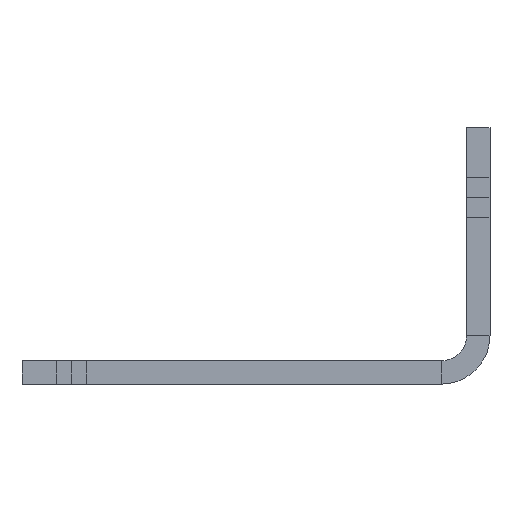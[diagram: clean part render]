
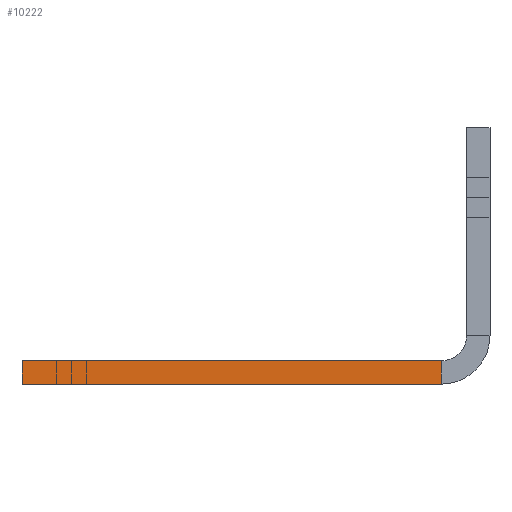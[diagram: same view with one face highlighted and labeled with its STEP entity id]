
A CAD part, front view. The second image highlights one B-rep face of the part: STEP entity #10222.
In plain terms, the highlighted planar face has unit normal (0, -1, 0).
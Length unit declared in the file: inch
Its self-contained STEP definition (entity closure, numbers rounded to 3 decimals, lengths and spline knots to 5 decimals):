
#1385=DIRECTION('',(0.,0.,1.));
#1386=VECTOR('',#1385,0.125);
#1387=CARTESIAN_POINT('',(-0.261,-35.,0.));
#1388=LINE('',#1387,#1386);
#1394=DIRECTION('',(-1.,0.,0.));
#1395=VECTOR('',#1394,2.25);
#1396=CARTESIAN_POINT('',(-0.261,-35.,0.));
#1397=LINE('',#1396,#1395);
#1398=DIRECTION('',(0.,0.,1.));
#1399=VECTOR('',#1398,0.125);
#1400=CARTESIAN_POINT('',(-2.511,-35.,0.));
#1401=LINE('',#1400,#1399);
#1402=DIRECTION('',(-1.,0.,0.));
#1403=VECTOR('',#1402,2.25);
#1404=CARTESIAN_POINT('',(-0.261,-35.,0.125));
#1405=LINE('',#1404,#1403);
#7266=CARTESIAN_POINT('',(-0.261,-35.,0.));
#7267=VERTEX_POINT('',#7266);
#7268=CARTESIAN_POINT('',(-2.511,-35.,0.));
#7269=VERTEX_POINT('',#7268);
#7282=CARTESIAN_POINT('',(-0.261,-35.,0.125));
#7283=VERTEX_POINT('',#7282);
#7284=CARTESIAN_POINT('',(-2.511,-35.,0.125));
#7285=VERTEX_POINT('',#7284);
#10209=CARTESIAN_POINT('',(-1.386,-35.,0.0625));
#10210=DIRECTION('',(0.,-1.,0.));
#10211=DIRECTION('',(-1.,0.,0.));
#10212=AXIS2_PLACEMENT_3D('',#10209,#10210,#10211);
#10213=PLANE('',#10212);
#10214=ORIENTED_EDGE('',*,*,#9343,.T.);
#10216=ORIENTED_EDGE('',*,*,#10215,.T.);
#10218=ORIENTED_EDGE('',*,*,#10217,.F.);
#10219=ORIENTED_EDGE('',*,*,#10200,.F.);
#10220=EDGE_LOOP('',(#10214,#10216,#10218,#10219));
#10221=FACE_OUTER_BOUND('',#10220,.F.);
#10222=ADVANCED_FACE('',(#10221),#10213,.T.);
#9343=EDGE_CURVE('',#7267,#7269,#1397,.T.);
#10200=EDGE_CURVE('',#7267,#7283,#1388,.T.);
#10215=EDGE_CURVE('',#7269,#7285,#1401,.T.);
#10217=EDGE_CURVE('',#7283,#7285,#1405,.T.);
